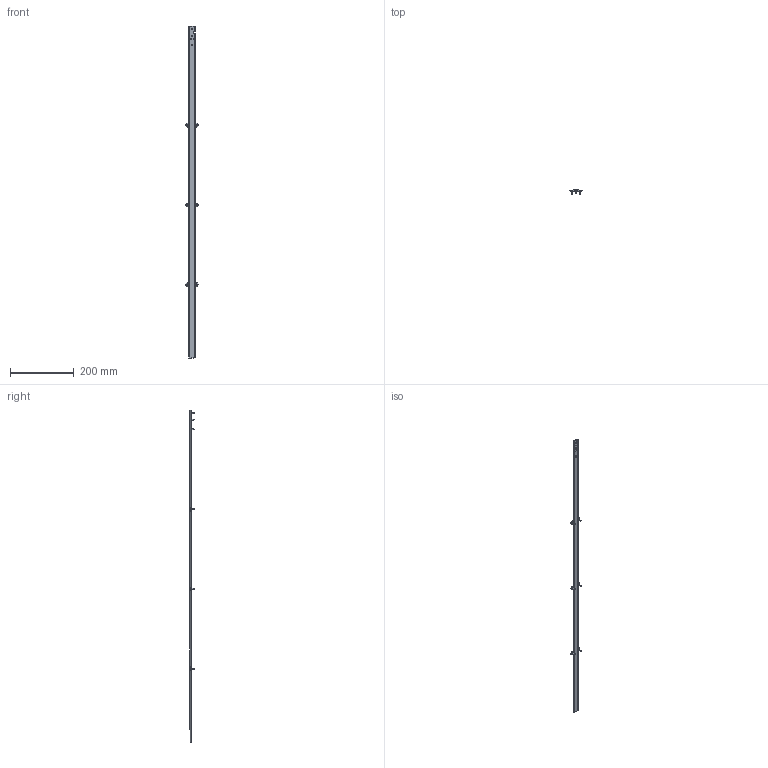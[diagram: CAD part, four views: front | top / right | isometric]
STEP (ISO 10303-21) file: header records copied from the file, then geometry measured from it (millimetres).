
FILE_DESCRIPTION (( 'STEP AP214' ), '1' );
FILE_NAME ('MS10.STEP', '2021-10-22T11:44:04', ( '' ), ( '' ), 'SwSTEP 2.0', 'SolidWorks 2020', '' );
FILE_SCHEMA (( 'AUTOMOTIVE_DESIGN' ));
Length unit declared in the file: millimetre
Products named in the file (7): Bolt_M2x4_RLS; MS10_magnetic_scale; MS10; Profile-2; Profile-1; Washer-conicalM3; Bolt_M3x10_RLS
Assembly tree (19 placements, depth 2):
  MS10
    Profile-2
    MS10_magnetic_scale
    Profile-1
    Bolt_M3x10_RLS  x9
    Washer-conicalM3  x6
    Bolt_M2x4_RLS
Bounding box: 37.98 x 12.95 x 1041 mm (x, y, z)
Volume: 73016.5 mm3; surface area: 75223.5 mm2
Topology: 19 solids, 19 shells, 527 faces, 1227 edges, 754 vertices
Faces by surface type: plane 270, cylinder 139, cone 93, torus 20, bspline 5
Entity records: 8005 total; most frequent: CARTESIAN_POINT 1488, DIRECTION 1311, ORIENTED_EDGE 1242, EDGE_CURVE 621, AXIS2_PLACEMENT_3D 449, VECTOR 413, LINE 413, VERTEX_POINT 406
